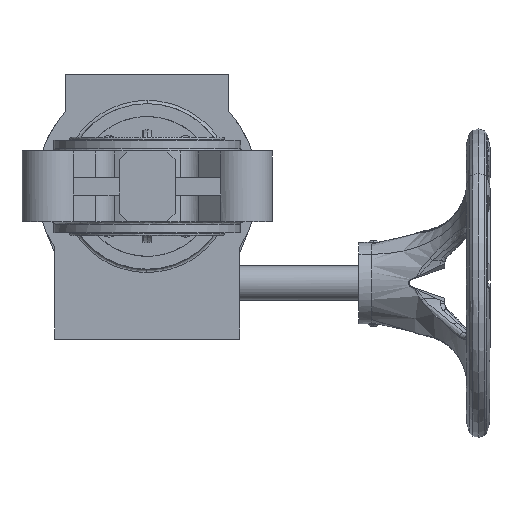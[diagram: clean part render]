
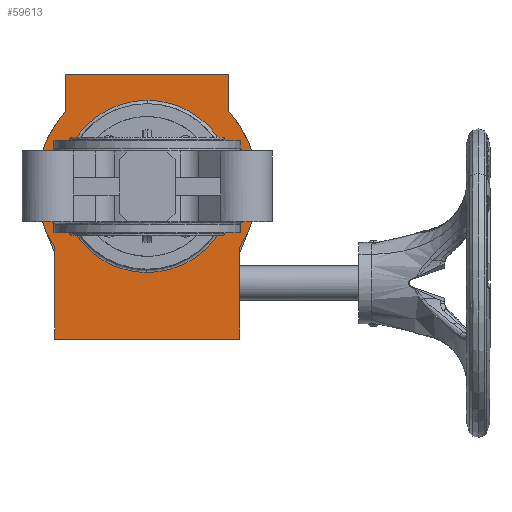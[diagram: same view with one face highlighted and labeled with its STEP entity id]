
A CAD part, front view. The second image highlights one B-rep face of the part: STEP entity #59613.
In plain terms, the highlighted planar face has unit normal (0, -1, 0).
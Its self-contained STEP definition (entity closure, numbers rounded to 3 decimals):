
#892 = ORIENTED_EDGE ( 'NONE', *, *, #15888, .F. ) ;
#1606 = DIRECTION ( 'NONE',  ( 0., 0., -1. ) ) ;
#3421 = EDGE_CURVE ( 'NONE', #12716, #21621, #25959, .T. ) ;
#3433 = EDGE_CURVE ( 'NONE', #38228, #12716, #9298, .T. ) ;
#5070 = EDGE_LOOP ( 'NONE', ( #68943, #85091, #72182, #58813, #13278, #72597, #58963, #14304 ) ) ;
#7153 = CARTESIAN_POINT ( 'NONE',  ( -43., 150., -28.342 ) ) ;
#8413 = CARTESIAN_POINT ( 'NONE',  ( 79.24, 150., -40. ) ) ;
#9074 = VERTEX_POINT ( 'NONE', #36960 ) ;
#9298 = CIRCLE ( 'NONE', #95026, 51.5 ) ;
#11348 =( BOUNDED_CURVE ( )  B_SPLINE_CURVE ( 3, ( #65506, #28218, #58023, #57544 ),
 .UNSPECIFIED., .F., .F. ) 
 B_SPLINE_CURVE_WITH_KNOTS ( ( 4, 4 ),
 ( 0.997, 1. ),
 .UNSPECIFIED. ) 
 CURVE ( )  GEOMETRIC_REPRESENTATION_ITEM ( )  RATIONAL_B_SPLINE_CURVE ( ( 1., 1., 1., 1. ) ) 
 REPRESENTATION_ITEM ( '' )  );
#11587 = ORIENTED_EDGE ( 'NONE', *, *, #55314, .F. ) ;
#11852 = DIRECTION ( 'NONE',  ( 0., 0., -1. ) ) ;
#12716 = VERTEX_POINT ( 'NONE', #70941 ) ;
#13278 = ORIENTED_EDGE ( 'NONE', *, *, #3433, .F. ) ;
#14304 = ORIENTED_EDGE ( 'NONE', *, *, #23558, .F. ) ;
#14365 = VERTEX_POINT ( 'NONE', #18236 ) ;
#15055 = CARTESIAN_POINT ( 'NONE',  ( 43., 150., -28.342 ) ) ;
#15353 = CARTESIAN_POINT ( 'NONE',  ( 0.383, 150., 39.998 ) ) ;
#15888 = EDGE_CURVE ( 'NONE', #9074, #30173, #11348, .T. ) ;
#17346 = EDGE_CURVE ( 'NONE', #94917, #38228, #59645, .T. ) ;
#18031 = CARTESIAN_POINT ( 'NONE',  ( 0.128, 150., 40. ) ) ;
#18152 = VERTEX_POINT ( 'NONE', #53559 ) ;
#18236 = CARTESIAN_POINT ( 'NONE',  ( 38., 150., 34.76 ) ) ;
#18719 = DIRECTION ( 'NONE',  ( 0., 0., -1. ) ) ;
#20293 = ORIENTED_EDGE ( 'NONE', *, *, #45710, .F. ) ;
#21479 = CARTESIAN_POINT ( 'NONE',  ( -43., 150., -71. ) ) ;
#21621 = VERTEX_POINT ( 'NONE', #33305 ) ;
#23135 = CARTESIAN_POINT ( 'NONE',  ( 0., 150., 52. ) ) ;
#23558 = EDGE_CURVE ( 'NONE', #29403, #89961, #41187, .T. ) ;
#25764 = AXIS2_PLACEMENT_3D ( 'NONE', #84085, #52776, #83593 ) ;
#25959 = LINE ( 'NONE', #56274, #80704 ) ;
#26305 = EDGE_CURVE ( 'NONE', #18152, #14365, #77454, .T. ) ;
#27325 =( BOUNDED_CURVE ( )  B_SPLINE_CURVE ( 3, ( #60600, #8413, #75587, #15353 ),
 .UNSPECIFIED., .F., .F. ) 
 B_SPLINE_CURVE_WITH_KNOTS ( ( 4, 4 ),
 ( 0., 0.997 ),
 .UNSPECIFIED. ) 
 CURVE ( )  GEOMETRIC_REPRESENTATION_ITEM ( )  RATIONAL_B_SPLINE_CURVE ( ( 1., 0.337, 0.337, 1. ) ) 
 REPRESENTATION_ITEM ( '' )  );
#28218 = CARTESIAN_POINT ( 'NONE',  ( -0.256, 150., -39.999 ) ) ;
#28841 = CARTESIAN_POINT ( 'NONE',  ( 0., 150., -40. ) ) ;
#29403 = VERTEX_POINT ( 'NONE', #15055 ) ;
#29425 = FACE_OUTER_BOUND ( 'NONE', #5070, .T. ) ;
#30173 = VERTEX_POINT ( 'NONE', #28841 ) ;
#32574 = CARTESIAN_POINT ( 'NONE',  ( 0., 150., 40. ) ) ;
#33059 = CARTESIAN_POINT ( 'NONE',  ( -0.383, 150., -39.998 ) ) ;
#33203 = EDGE_CURVE ( 'NONE', #30173, #84962, #27325, .T. ) ;
#33305 = CARTESIAN_POINT ( 'NONE',  ( -38., 150., 52. ) ) ;
#33569 = CARTESIAN_POINT ( 'NONE',  ( 0., 150., -71. ) ) ;
#34558 = EDGE_CURVE ( 'NONE', #21621, #18152, #61368, .T. ) ;
#36960 = CARTESIAN_POINT ( 'NONE',  ( -0.383, 150., -39.998 ) ) ;
#38228 = VERTEX_POINT ( 'NONE', #7153 ) ;
#38848 = PLANE ( 'NONE',  #25764 ) ;
#39794 = CARTESIAN_POINT ( 'NONE',  ( 0.383, 150., 39.998 ) ) ;
#41187 = LINE ( 'NONE', #85939, #85414 ) ;
#44331 = EDGE_CURVE ( 'NONE', #14365, #29403, #63552, .T. ) ;
#44428 = CARTESIAN_POINT ( 'NONE',  ( 0., 150., 0. ) ) ;
#44468 = AXIS2_PLACEMENT_3D ( 'NONE', #44428, #76284, #74797 ) ;
#45710 = EDGE_CURVE ( 'NONE', #98196, #9074, #68554, .T. ) ;
#45736 = DIRECTION ( 'NONE',  ( 0., 0., 1. ) ) ;
#47477 = CARTESIAN_POINT ( 'NONE',  ( -79.24, 150., 40. ) ) ;
#52776 = DIRECTION ( 'NONE',  ( 0., 1., 0. ) ) ;
#53559 = CARTESIAN_POINT ( 'NONE',  ( 38., 150., 52. ) ) ;
#54972 = DIRECTION ( 'NONE',  ( -1., 0., 0. ) ) ;
#55314 = EDGE_CURVE ( 'NONE', #84962, #98196, #67390, .T. ) ;
#56274 = CARTESIAN_POINT ( 'NONE',  ( -38., 150., 0. ) ) ;
#57276 = CARTESIAN_POINT ( 'NONE',  ( 0., 150., 40. ) ) ;
#57544 = CARTESIAN_POINT ( 'NONE',  ( 0., 150., -40. ) ) ;
#58023 = CARTESIAN_POINT ( 'NONE',  ( -0.128, 150., -40. ) ) ;
#58813 = ORIENTED_EDGE ( 'NONE', *, *, #3421, .F. ) ;
#58963 = ORIENTED_EDGE ( 'NONE', *, *, #75721, .F. ) ;
#59613 = ADVANCED_FACE ( 'NONE', ( #92022, #29425 ), #38848, .F. ) ;
#59645 = LINE ( 'NONE', #61622, #81527 ) ;
#60187 = VECTOR ( 'NONE', #60875, 1000. ) ;
#60600 = CARTESIAN_POINT ( 'NONE',  ( 0., 150., -40. ) ) ;
#60875 = DIRECTION ( 'NONE',  ( 1., 0., 0. ) ) ;
#61368 = LINE ( 'NONE', #23135, #60187 ) ;
#61622 = CARTESIAN_POINT ( 'NONE',  ( -43., 150., 0. ) ) ;
#62689 = CARTESIAN_POINT ( 'NONE',  ( 43., 150., -71. ) ) ;
#62957 = CARTESIAN_POINT ( 'NONE',  ( 38., 150., 0. ) ) ;
#63552 = CIRCLE ( 'NONE', #44468, 51.5 ) ;
#63752 = VECTOR ( 'NONE', #18719, 1000. ) ;
#65506 = CARTESIAN_POINT ( 'NONE',  ( -0.383, 150., -39.998 ) ) ;
#67390 =( BOUNDED_CURVE ( )  B_SPLINE_CURVE ( 3, ( #94096, #95082, #18031, #57276 ),
 .UNSPECIFIED., .F., .F. ) 
 B_SPLINE_CURVE_WITH_KNOTS ( ( 4, 4 ),
 ( 0.997, 1. ),
 .UNSPECIFIED. ) 
 CURVE ( )  GEOMETRIC_REPRESENTATION_ITEM ( )  RATIONAL_B_SPLINE_CURVE ( ( 1., 1., 1., 1. ) ) 
 REPRESENTATION_ITEM ( '' )  );
#68554 =( BOUNDED_CURVE ( )  B_SPLINE_CURVE ( 3, ( #32574, #47477, #76868, #33059 ),
 .UNSPECIFIED., .F., .T. ) 
 B_SPLINE_CURVE_WITH_KNOTS ( ( 4, 4 ),
 ( 0., 0.997 ),
 .UNSPECIFIED. ) 
 CURVE ( )  GEOMETRIC_REPRESENTATION_ITEM ( )  RATIONAL_B_SPLINE_CURVE ( ( 1., 0.337, 0.337, 1. ) ) 
 REPRESENTATION_ITEM ( '' )  );
#68943 = ORIENTED_EDGE ( 'NONE', *, *, #44331, .F. ) ;
#69731 = DIRECTION ( 'NONE',  ( 0., 1., 0. ) ) ;
#70941 = CARTESIAN_POINT ( 'NONE',  ( -38., 150., 34.76 ) ) ;
#72182 = ORIENTED_EDGE ( 'NONE', *, *, #34558, .F. ) ;
#72597 = ORIENTED_EDGE ( 'NONE', *, *, #17346, .F. ) ;
#74797 = DIRECTION ( 'NONE',  ( 0., 0., 1. ) ) ;
#75587 = CARTESIAN_POINT ( 'NONE',  ( 79.619, 150., 39.239 ) ) ;
#75721 = EDGE_CURVE ( 'NONE', #89961, #94917, #93223, .T. ) ;
#76284 = DIRECTION ( 'NONE',  ( 0., 1., 0. ) ) ;
#76868 = CARTESIAN_POINT ( 'NONE',  ( -79.619, 150., -39.239 ) ) ;
#77454 = LINE ( 'NONE', #62957, #63752 ) ;
#78152 = CARTESIAN_POINT ( 'NONE',  ( 0., 150., 40. ) ) ;
#80704 = VECTOR ( 'NONE', #86591, 1000. ) ;
#81527 = VECTOR ( 'NONE', #45736, 1000. ) ;
#83593 = DIRECTION ( 'NONE',  ( 0., 0., 1. ) ) ;
#84085 = CARTESIAN_POINT ( 'NONE',  ( 0., 150., 0. ) ) ;
#84962 = VERTEX_POINT ( 'NONE', #39794 ) ;
#85091 = ORIENTED_EDGE ( 'NONE', *, *, #26305, .F. ) ;
#85414 = VECTOR ( 'NONE', #11852, 1000. ) ;
#85939 = CARTESIAN_POINT ( 'NONE',  ( 43., 150., 0. ) ) ;
#86207 = VECTOR ( 'NONE', #54972, 1000. ) ;
#86591 = DIRECTION ( 'NONE',  ( 0., 0., 1. ) ) ;
#88424 = CARTESIAN_POINT ( 'NONE',  ( 0., 150., 0. ) ) ;
#89961 = VERTEX_POINT ( 'NONE', #62689 ) ;
#91441 = ORIENTED_EDGE ( 'NONE', *, *, #33203, .F. ) ;
#92022 = FACE_BOUND ( 'NONE', #96687, .T. ) ;
#93223 = LINE ( 'NONE', #33569, #86207 ) ;
#94096 = CARTESIAN_POINT ( 'NONE',  ( 0.383, 150., 39.998 ) ) ;
#94917 = VERTEX_POINT ( 'NONE', #21479 ) ;
#95026 = AXIS2_PLACEMENT_3D ( 'NONE', #88424, #69731, #1606 ) ;
#95082 = CARTESIAN_POINT ( 'NONE',  ( 0.256, 150., 39.999 ) ) ;
#96687 = EDGE_LOOP ( 'NONE', ( #20293, #11587, #91441, #892 ) ) ;
#98196 = VERTEX_POINT ( 'NONE', #78152 ) ;
